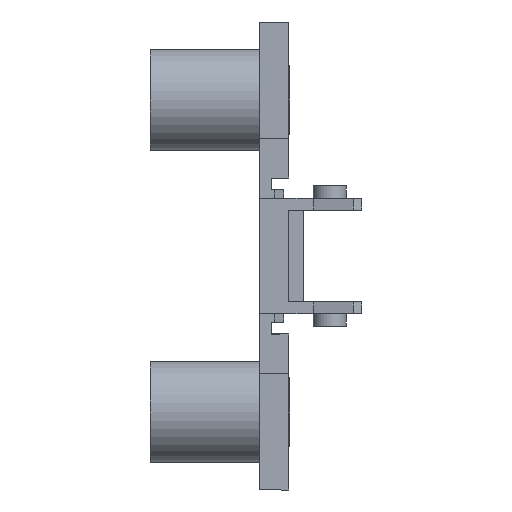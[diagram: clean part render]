
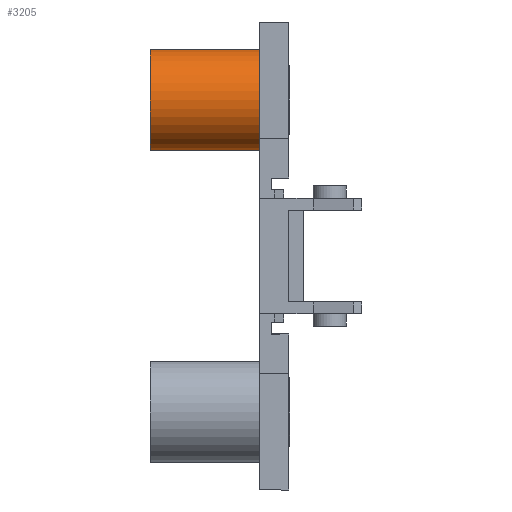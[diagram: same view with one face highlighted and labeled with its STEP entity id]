
A CAD part, front view. The second image highlights one B-rep face of the part: STEP entity #3205.
In plain terms, the highlighted cylindrical face has radius 5.2 mm (diameter 10.4 mm), a partial arc.
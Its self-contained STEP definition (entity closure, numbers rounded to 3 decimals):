
#118 = ORIENTED_EDGE ( 'NONE', *, *, #3336, .T. ) ;
#154 = AXIS2_PLACEMENT_3D ( 'NONE', #1593, #1605, #201 ) ;
#201 = DIRECTION ( 'NONE',  ( 0., 0., 1. ) ) ;
#240 = DIRECTION ( 'NONE',  ( 0., 0., -1. ) ) ;
#434 = CYLINDRICAL_SURFACE ( 'NONE', #3180, 5.2 ) ;
#497 = DIRECTION ( 'NONE',  ( -1., 0., 0. ) ) ;
#519 = EDGE_LOOP ( 'NONE', ( #1860, #1794, #118, #2385 ) ) ;
#520 = CARTESIAN_POINT ( 'NONE',  ( 0., -9., 16. ) ) ;
#565 = DIRECTION ( 'NONE',  ( 1., 0., 0. ) ) ;
#568 = VECTOR ( 'NONE', #2182, 1000. ) ;
#714 = CIRCLE ( 'NONE', #2637, 5.2 ) ;
#778 = CARTESIAN_POINT ( 'NONE',  ( -11.2, -9., 16. ) ) ;
#805 = CARTESIAN_POINT ( 'NONE',  ( -11.2, -9., 21.2 ) ) ;
#975 = EDGE_CURVE ( 'NONE', #2853, #1072, #714, .T. ) ;
#1047 = LINE ( 'NONE', #805, #2204 ) ;
#1072 = VERTEX_POINT ( 'NONE', #3539 ) ;
#1283 = LINE ( 'NONE', #2207, #568 ) ;
#1348 = DIRECTION ( 'NONE',  ( 1., 0., 0. ) ) ;
#1593 = CARTESIAN_POINT ( 'NONE',  ( -11.2, -9., 16. ) ) ;
#1605 = DIRECTION ( 'NONE',  ( -1., 0., 0. ) ) ;
#1781 = CARTESIAN_POINT ( 'NONE',  ( -11.2, -9., 10.8 ) ) ;
#1794 = ORIENTED_EDGE ( 'NONE', *, *, #3092, .F. ) ;
#1860 = ORIENTED_EDGE ( 'NONE', *, *, #2177, .F. ) ;
#1876 = CARTESIAN_POINT ( 'NONE',  ( -11.2, -9., 21.2 ) ) ;
#2165 = DIRECTION ( 'NONE',  ( 0., 0., -1. ) ) ;
#2177 = EDGE_CURVE ( 'NONE', #3106, #1072, #1047, .T. ) ;
#2182 = DIRECTION ( 'NONE',  ( 1., 0., 0. ) ) ;
#2204 = VECTOR ( 'NONE', #1348, 1000. ) ;
#2207 = CARTESIAN_POINT ( 'NONE',  ( -11.2, -9., 10.8 ) ) ;
#2234 = CARTESIAN_POINT ( 'NONE',  ( 0., -9., 10.8 ) ) ;
#2385 = ORIENTED_EDGE ( 'NONE', *, *, #975, .T. ) ;
#2416 = VERTEX_POINT ( 'NONE', #1781 ) ;
#2583 = CIRCLE ( 'NONE', #154, 5.2 ) ;
#2637 = AXIS2_PLACEMENT_3D ( 'NONE', #520, #497, #2165 ) ;
#2853 = VERTEX_POINT ( 'NONE', #2234 ) ;
#2867 = FACE_OUTER_BOUND ( 'NONE', #519, .T. ) ;
#3092 = EDGE_CURVE ( 'NONE', #2416, #3106, #2583, .T. ) ;
#3106 = VERTEX_POINT ( 'NONE', #1876 ) ;
#3180 = AXIS2_PLACEMENT_3D ( 'NONE', #778, #565, #240 ) ;
#3205 = ADVANCED_FACE ( 'NONE', ( #2867 ), #434, .T. ) ;
#3336 = EDGE_CURVE ( 'NONE', #2416, #2853, #1283, .T. ) ;
#3539 = CARTESIAN_POINT ( 'NONE',  ( 0., -9., 21.2 ) ) ;
